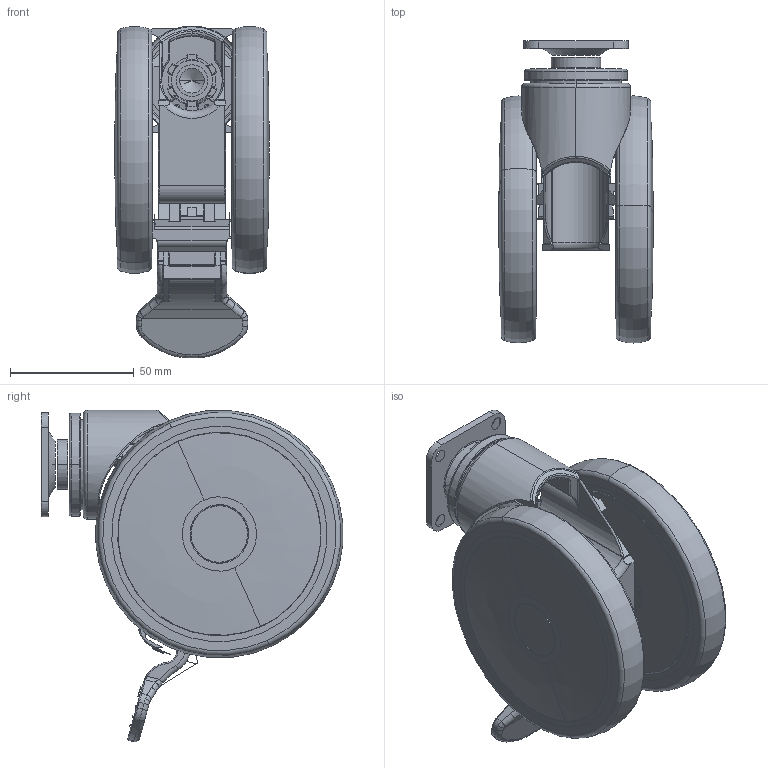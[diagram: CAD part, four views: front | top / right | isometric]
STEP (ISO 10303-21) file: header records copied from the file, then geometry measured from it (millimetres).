
FILE_DESCRIPTION((''),'2;1');
FILE_NAME('PRT0013','2026-04-15T11:50:34',('Administrator'),(''),'CREO PARAMETRIC BY PTC INC, 2022124','CREO PARAMETRIC BY PTC INC, 2022124','');
FILE_SCHEMA(('AUTOMOTIVE_DESIGN { 1 0 10303 214 1 1 1 1 }'));
Length unit declared in the file: millimetre
Products named in the file (1): PRT0013
Bounding box: 62.2 x 121.9 x 133.93 mm (x, y, z)
Surface area: 58308 mm2 (no closed solid volume)
Topology: 0 solids, 59 shells, 323 faces, 1719 edges, 1433 vertices
Faces by surface type: cylinder 116, plane 104, torus 51, bspline 44, cone 6, extrusion 2
Entity records: 23520 total; most frequent: CARTESIAN_POINT 8805, DIRECTION 2380, ORIENTED_EDGE 2174, EDGE_CURVE 1717, VERTEX_POINT 1433, AXIS2_PLACEMENT_3D 843, VECTOR 691, LINE 689
